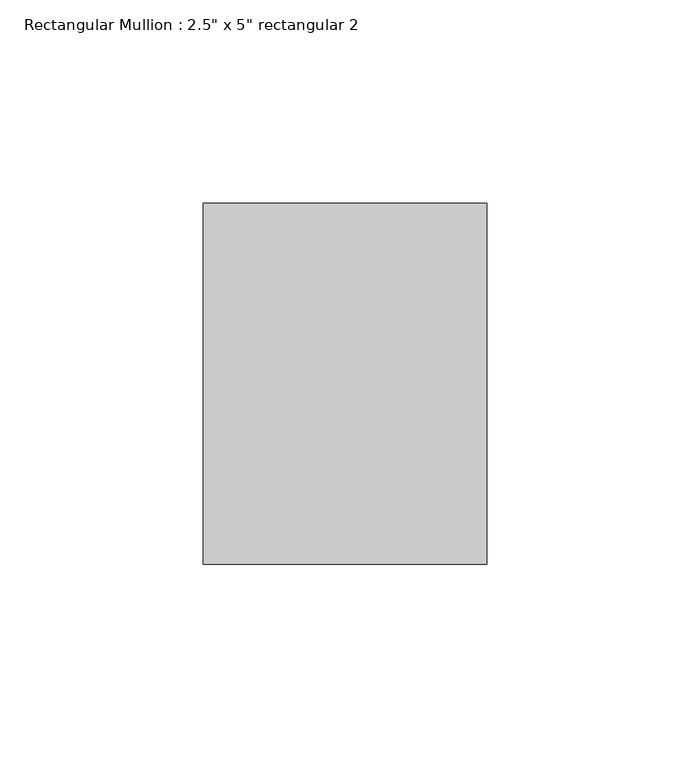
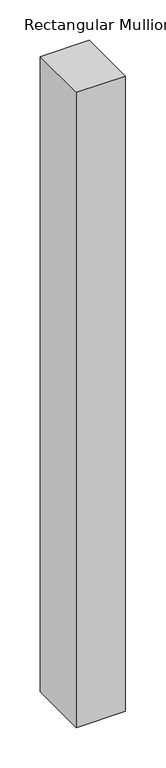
"""IFC4 building model written with IfcOpenShell, lengths in millimetres: member geometry."""

import ifcopenshell
import ifcopenshell.guid

model = None  # the IFC model being written
_history = None  # IfcOwnerHistory: only IFC2X3 demands one
_inside = {}  # id of a spatial element -> (the spatial element, [elements in it])
_under = {}  # id of a project, library or spatial element -> (it, [spatial elements below it])
_declared = {}  # id of a project -> (the project, [libraries it declares])
_typed = {}  # id of a type object -> (the type object, [elements of that type])
_made_of = {}  # id of a material, layer set ... -> (it, [elements and type objects made of it])


def new_model(schema):
    """Start an empty IFC model of exactly this schema.

    Asked for "IFC4X3", IfcOpenShell would pick the latest addendum, in which some entities
    have other attributes; the version numbers below select the first issue.
    IFC2X3 requires an IfcOwnerHistory on every rooted entity: one is made here for all.
    """
    global model, _history
    if schema == "IFC4X3":
        model = ifcopenshell.file(schema_version=(4, 3, 0, 0))
    else:
        model = ifcopenshell.file(schema=schema)
    _inside.clear()
    _under.clear()
    _declared.clear()
    _typed.clear()
    _made_of.clear()
    _history = None
    if model.schema == "IFC2X3":
        org = make("IfcOrganization", Name="unknown")
        user = make(
            "IfcPersonAndOrganization",
            ThePerson=make("IfcPerson", FamilyName="unknown"),
            TheOrganization=org,
        )
        app = make(
            "IfcApplication",
            ApplicationDeveloper=org,
            Version="unknown",
            ApplicationFullName="unknown",
            ApplicationIdentifier="unknown",
        )
        _history = make(
            "IfcOwnerHistory",
            OwningUser=user,
            OwningApplication=app,
            ChangeAction="ADDED",
            CreationDate=0,
        )
    return model


def make(cls, **values):
    """One entity of the class cls with the attributes given. An attribute that is None is left unset."""
    return model.create_entity(
        cls, **{name: value for name, value in values.items() if value is not None}
    )


def rooted(cls, **values):
    """An entity with a GlobalId (a new one), such as an element, a storey or a relation."""
    return make(cls, GlobalId=ifcopenshell.guid.new(), OwnerHistory=_history, **values)


def si_unit(unit_type, name, prefix=None):
    """IfcSIUnit, for example si_unit("LENGTHUNIT", "METRE", prefix="MILLI")."""
    return make("IfcSIUnit", UnitType=unit_type, Prefix=prefix, Name=name)


def assignment(units):
    """IfcUnitAssignment: the units of a project."""
    return None if units is None else make("IfcUnitAssignment", Units=units)


def point(xyz):
    """IfcCartesianPoint."""
    return None if xyz is None else make("IfcCartesianPoint", Coordinates=xyz)


def direction(xyz):
    """IfcDirection."""
    return None if xyz is None else make("IfcDirection", DirectionRatios=xyz)


def frame(location, z_axis=None, x_axis=None):
    """IfcAxis2Placement3D, a coordinate frame: its origin and axes. An axis left out is left unset."""
    return make(
        "IfcAxis2Placement3D",
        Location=point(location),
        Axis=direction(z_axis),
        RefDirection=direction(x_axis),
    )


def origin():
    """The frame at (0, 0, 0) with its axes left unset."""
    return frame((0.0, 0.0, 0.0))


def place(relative_to, where):
    """IfcLocalPlacement: puts the frame where relative to a parent placement (None: the world)."""
    return make(
        "IfcLocalPlacement", PlacementRelTo=relative_to, RelativePlacement=where
    )


def context(
    kind, dimensions, precision=None, world=None, true_north=None, identifier=None
):
    """IfcGeometricRepresentationContext, for example the 3D "Model" context."""
    return make(
        "IfcGeometricRepresentationContext",
        ContextIdentifier=identifier,
        ContextType=kind,
        CoordinateSpaceDimension=dimensions,
        Precision=precision,
        WorldCoordinateSystem=world,
        TrueNorth=true_north,
    )


def project(units=None, contexts=None):
    """IfcProject with its units and contexts."""
    return rooted(
        "IfcProject",
        Name="project",
        RepresentationContexts=contexts,
        UnitsInContext=assignment(units),
    )


def spatial(cls, under=None, at=None, **own):
    """A site, building, storey or space (cls), placed at a placement, below another one or the project."""
    s = rooted(cls, ObjectPlacement=at, **own)
    if under is not None:
        _under.setdefault(under.id(), (under, []))[1].append(s)
    return s


def polyline(points):
    """IfcPolyline through the points."""
    return make("IfcPolyline", Points=[point(p) for p in points])


def outline(outer, holes=None, kind="AREA"):
    """IfcArbitraryClosedProfileDef: a profile drawn as a closed curve; with holes, ...WithVoids."""
    if holes is None:
        return make("IfcArbitraryClosedProfileDef", ProfileType=kind, OuterCurve=outer)
    return make(
        "IfcArbitraryProfileDefWithVoids",
        ProfileType=kind,
        OuterCurve=outer,
        InnerCurves=holes,
    )


def extrude(swept, where, along, depth):
    """IfcExtrudedAreaSolid: the profile swept, set in the frame where, extruded along a direction by depth."""
    return make(
        "IfcExtrudedAreaSolid",
        SweptArea=swept,
        Position=where,
        ExtrudedDirection=direction(along),
        Depth=depth,
    )


def shape(context_of_items, identifier, shape_type, items):
    """IfcShapeRepresentation: the items that make up one representation, for example the "Body"."""
    return make(
        "IfcShapeRepresentation",
        ContextOfItems=context_of_items,
        RepresentationIdentifier=identifier,
        RepresentationType=shape_type,
        Items=items,
    )


def source(mapping_origin, context_of_items, identifier, shape_type, items):
    """IfcRepresentationMap: a shape defined once, which mapped items show again and again."""
    return make(
        "IfcRepresentationMap",
        MappingOrigin=mapping_origin,
        MappedRepresentation=shape(context_of_items, identifier, shape_type, items),
    )


def transform(
    local_origin,
    x_axis=None,
    y_axis=None,
    z_axis=None,
    scale=None,
    scale2=None,
    scale3=None,
    uniform=True,
):
    """IfcCartesianTransformationOperator3D, or its non-uniform kind. x_axis, y_axis, z_axis: its Axis1, 2, 3."""
    if uniform:
        return make(
            "IfcCartesianTransformationOperator3D",
            Axis1=direction(x_axis),
            Axis2=direction(y_axis),
            LocalOrigin=point(local_origin),
            Scale=scale,
            Axis3=direction(z_axis),
        )
    return make(
        "IfcCartesianTransformationOperator3DnonUniform",
        Axis1=direction(x_axis),
        Axis2=direction(y_axis),
        LocalOrigin=point(local_origin),
        Scale=scale,
        Axis3=direction(z_axis),
        Scale2=scale2,
        Scale3=scale3,
    )


def mapped(mapping_source, mapping_target):
    """IfcMappedItem: shows the shape of a source again, moved by a transform."""
    return make(
        "IfcMappedItem", MappingSource=mapping_source, MappingTarget=mapping_target
    )


def made_of(thing, what):
    """Note that an element or type object is made of a material, layer set ...; save() writes the relation."""
    if what is not None:
        _made_of.setdefault(what.id(), (what, []))[1].append(thing)
    return thing


def element(
    cls,
    number,
    at=None,
    inside=None,
    cuts=None,
    type_object=None,
    material=None,
    context=None,
    identifier="Body",
    shape_type=None,
    held_by="IfcProductDefinitionShape",
    body=None,
    shapes=None,
    **own,
):
    """One element of the class cls, such as IfcWall. Its Tag is "e" and its number.

    at: its placement. inside: the storey or other place that contains it. cuts: it is an
    opening in that element (IfcRelVoidsElement). A single representation is given by context,
    identifier, shape_type and body (its items); several are given by shapes. held_by: the class
    of the entity that holds the representations. save() writes the other relations.
    """
    e = rooted(cls, Tag="e%d" % number, ObjectPlacement=at, **own)
    if body is not None:
        shapes = [shape(context, identifier, shape_type, body)]
    if shapes is not None:
        e.Representation = make(held_by, Representations=shapes)
    if inside is not None:
        _inside.setdefault(inside.id(), (inside, []))[1].append(e)
    if cuts is not None:
        rooted(
            "IfcRelVoidsElement", RelatingBuildingElement=cuts, RelatedOpeningElement=e
        )
    if type_object is not None:
        _typed.setdefault(type_object.id(), (type_object, []))[1].append(e)
    return made_of(e, material)


def aggregate(whole, parts):
    """IfcRelAggregates: a whole, such as a stair, and the parts it consists of."""
    return rooted("IfcRelAggregates", RelatingObject=whole, RelatedObjects=parts)


def save(model, path):
    """Write the relations noted so far, then the file.

    IfcRelAggregates (storeys below a building ...), IfcRelContainedInSpatialStructure (elements
    in a storey), IfcRelDefinesByType, IfcRelAssociatesMaterial and IfcRelDeclares: one each for
    every whole, place, type object, material and project.
    """
    for whole, parts in _under.values():
        aggregate(whole, parts)
    for where, things in _inside.values():
        rooted(
            "IfcRelContainedInSpatialStructure",
            RelatedElements=things,
            RelatingStructure=where,
        )
    for kind, things in _typed.values():
        rooted("IfcRelDefinesByType", RelatedObjects=things, RelatingType=kind)
    for what, things in _made_of.values():
        rooted("IfcRelAssociatesMaterial", RelatedObjects=things, RelatingMaterial=what)
    for by, libraries in _declared.values():
        rooted("IfcRelDeclares", RelatingContext=by, RelatedDefinitions=libraries)
    model.write(path)


def member_18ee34ea(model_context):
    return source(origin(), model_context, "Body", "SweptSolid", [
        extrude(outline(polyline([(0.0, 44.45), (0.0, -44.45), (-69.85, -44.45), (-69.85, 44.45), (0.0, 44.45)])), frame((0.0, 0.0, -960.259966), z_axis=(0.0, 0.0, 1.0), x_axis=(1.0, 0.0, 0.0)), (0.0, 0.0, 1.0), 960.259966),
    ])


if __name__ == "__main__":
    model = new_model("IFC4")
    model_context = context("Model", 3, world=origin())
    ifc_project = project(units=[si_unit("LENGTHUNIT", "METRE", prefix="MILLI")], contexts=[model_context])
    site = spatial("IfcSite", under=ifc_project)
    building = spatial("IfcBuilding", under=site)
    placement = place(None, origin())
    member_shape = member_18ee34ea(model_context)
    element("IfcMember", 1, ObjectType="Rectangular Mullion : 2.5\" x 5\" rectangular 2", at=placement, inside=building, context=model_context, shape_type="MappedRepresentation", body=[
        mapped(member_shape, transform((0.0, 0.0, 0.0), x_axis=(1.0, 0.0, 0.0), y_axis=(0.0, 1.0, 0.0), z_axis=(0.0, 0.0, 1.0))),
    ])
    save(model, "model.ifc")
